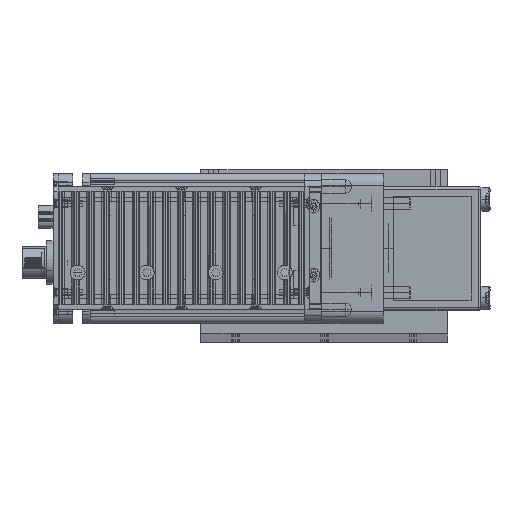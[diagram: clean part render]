
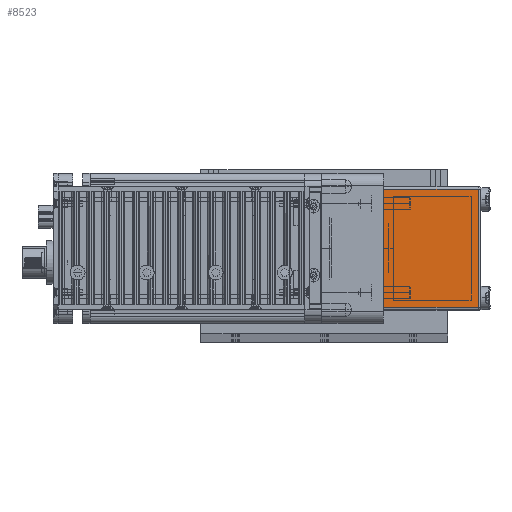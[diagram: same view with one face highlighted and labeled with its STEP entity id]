
A CAD part, top view. The second image highlights one B-rep face of the part: STEP entity #8523.
In plain terms, the highlighted planar face has unit normal (0, 0, 1) as drawn and (1, 0, 0) by its records, which use the part's own axes.
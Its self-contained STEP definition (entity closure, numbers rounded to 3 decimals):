
#8324 = VERTEX_POINT ( 'NONE', #20167 ) ;
#8331 = VERTEX_POINT ( 'NONE', #20161 ) ;
#8340 = VERTEX_POINT ( 'NONE', #20200 ) ;
#8401 = EDGE_CURVE ( 'NONE', #8331, #8449, #20272, .T. ) ;
#8425 = EDGE_CURVE ( 'NONE', #8324, #8340, #20253, .T. ) ;
#8449 = VERTEX_POINT ( 'NONE', #20300 ) ;
#8523 = ADVANCED_FACE ( 'NONE', ( #20359 ), #20358, .F. ) ;
#8524 = EDGE_CURVE ( 'NONE', #8331, #8340, #20349, .T. ) ;
#8527 = EDGE_CURVE ( 'NONE', #8449, #8324, #20338, .T. ) ;
#8570 = ORIENTED_EDGE ( 'NONE', *, *, #8524, .T. ) ;
#8635 = ORIENTED_EDGE ( 'NONE', *, *, #8527, .F. ) ;
#8647 = ORIENTED_EDGE ( 'NONE', *, *, #8401, .F. ) ;
#8649 = ORIENTED_EDGE ( 'NONE', *, *, #8425, .F. ) ;
#8654 = EDGE_LOOP ( 'NONE', ( #8647, #8570, #8649, #8635 ) ) ;
#20161 = CARTESIAN_POINT ( 'NONE',  ( 62., -24., 0. ) ) ;
#20167 = CARTESIAN_POINT ( 'NONE',  ( 62., 24., 38.5 ) ) ;
#20200 = CARTESIAN_POINT ( 'NONE',  ( 62., 24., 0. ) ) ;
#20249 = DIRECTION ( 'NONE',  ( 0., 0., -1. ) ) ;
#20250 = VECTOR ( 'NONE', #20249, 1000. ) ;
#20252 = CARTESIAN_POINT ( 'NONE',  ( 62., 24., 39.5 ) ) ;
#20253 = LINE ( 'NONE', #20252, #20250 ) ;
#20265 = DIRECTION ( 'NONE',  ( 0., 0., 1. ) ) ;
#20266 = VECTOR ( 'NONE', #20265, 1000. ) ;
#20267 = CARTESIAN_POINT ( 'NONE',  ( 62., -24., 39.5 ) ) ;
#20272 = LINE ( 'NONE', #20267, #20266 ) ;
#20300 = CARTESIAN_POINT ( 'NONE',  ( 62., -24., 38.5 ) ) ;
#20335 = DIRECTION ( 'NONE',  ( 0., 1., 0. ) ) ;
#20336 = VECTOR ( 'NONE', #20335, 1000. ) ;
#20337 = CARTESIAN_POINT ( 'NONE',  ( 62., -25., 38.5 ) ) ;
#20338 = LINE ( 'NONE', #20337, #20336 ) ;
#20341 = VECTOR ( 'NONE', #20347, 1000. ) ;
#20343 = DIRECTION ( 'NONE',  ( 0., -1., 0. ) ) ;
#20344 = DIRECTION ( 'NONE',  ( -1., 0., 0. ) ) ;
#20345 = CARTESIAN_POINT ( 'NONE',  ( 62., 25., 39.5 ) ) ;
#20346 = AXIS2_PLACEMENT_3D ( 'NONE', #20345, #20344, #20343 ) ;
#20347 = DIRECTION ( 'NONE',  ( 0., 1., 0. ) ) ;
#20348 = CARTESIAN_POINT ( 'NONE',  ( 62., -25., 0. ) ) ;
#20349 = LINE ( 'NONE', #20348, #20341 ) ;
#20358 = PLANE ( 'NONE',  #20346 ) ;
#20359 = FACE_OUTER_BOUND ( 'NONE', #8654, .T. ) ;
